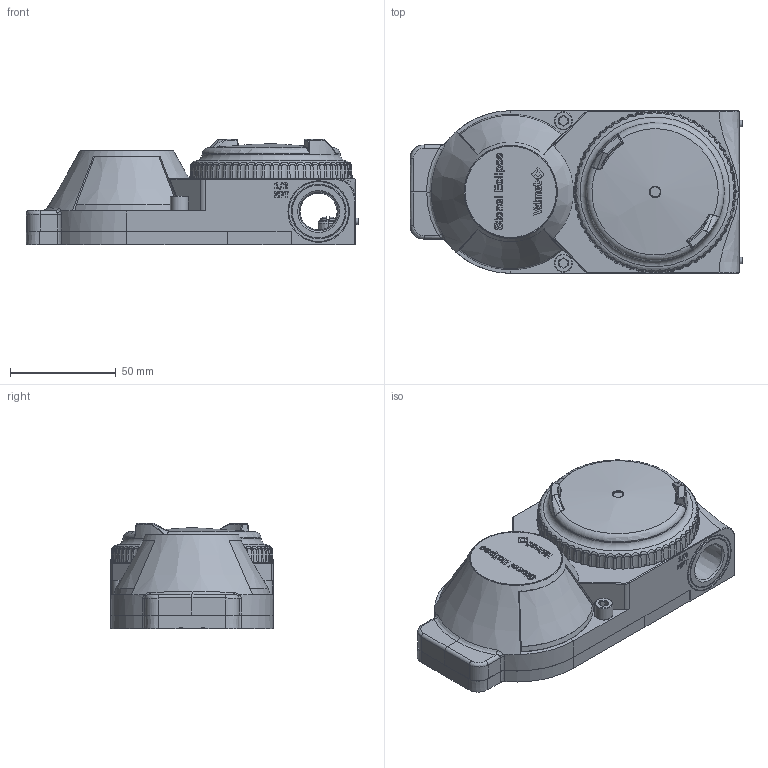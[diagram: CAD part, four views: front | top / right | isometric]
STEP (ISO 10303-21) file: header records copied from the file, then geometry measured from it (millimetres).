
FILE_DESCRIPTION(/* description */ (''),/* implementation_level */ '2;1');
FILE_NAME(/* name */ 'C:\Vault\Engineering Documents\Work In Progress\BKunz\AN Misc Assemblies\Website models\Eclipse EC\Website EC.stp',/* time_stamp */ '2024-02-02T16:28:40-06:00',/* author */ ('workunzbo'),/* organization */ ('Metso'),/* preprocessor_version */ 'ST-DEVELOPER v18.1',/* originating_system */ 'Autodesk Inventor 2020',/* authorisation */ '');
FILE_SCHEMA (('AUTOMOTIVE_DESIGN { 1 0 10303 214 3 1 1 }'));
Length unit declared in the file: inch
Products named in the file (1): Website EC
Bounding box: 156.97 x 76.96 x 49.71 mm (x, y, z)
Volume: 195457.5 mm3; surface area: 124140 mm2
Topology: 1 solids, 22 shells, 2738 faces, 7105 edges, 4441 vertices
Faces by surface type: plane 971, bspline 622, cylinder 489, cone 283, torus 241, sphere 132
Full cylindrical faces by diameter (mm): 1.397 x2, 2.642 x1, 3.683 x2, 4.026 x1, 4.14 x2, 4.343 x2, 4.648 x1, 4.978 x2, 5.334 x2, 6 x2, 6.045 x2, 7.087 x2, 7.112 x2, 7.239 x2, 7.925 x1, 8.484 x2, 12.7 x1, 25.527 x2, 25.679 x2, 28.575 x4, 43.18 x1, 63.119 x4, 65.26 x4, 71.12 x1
Entity records: 109141 total; most frequent: CARTESIAN_POINT 43630, ORIENTED_EDGE 14124, DIRECTION 11439, EDGE_CURVE 7062, VERTEX_POINT 4441, AXIS2_PLACEMENT_3D 4230, LINE 2979, VECTOR 2979
